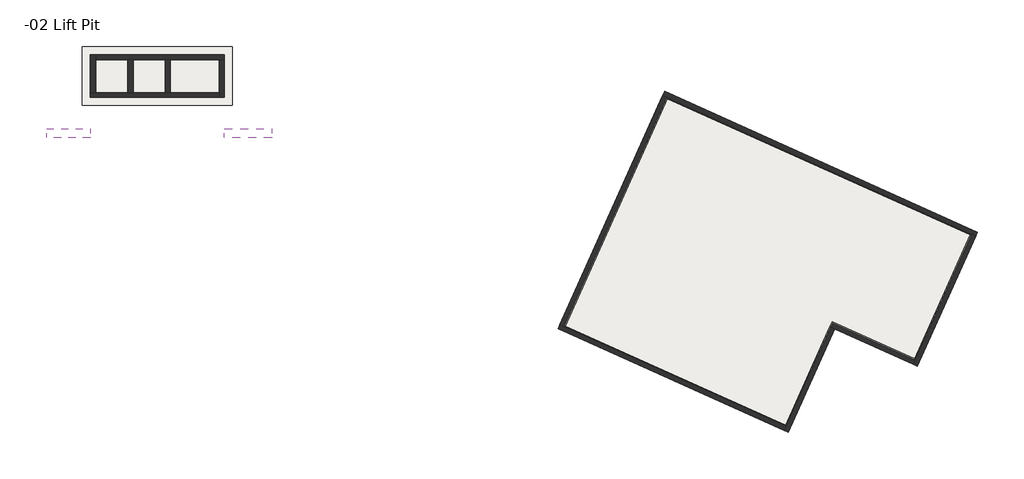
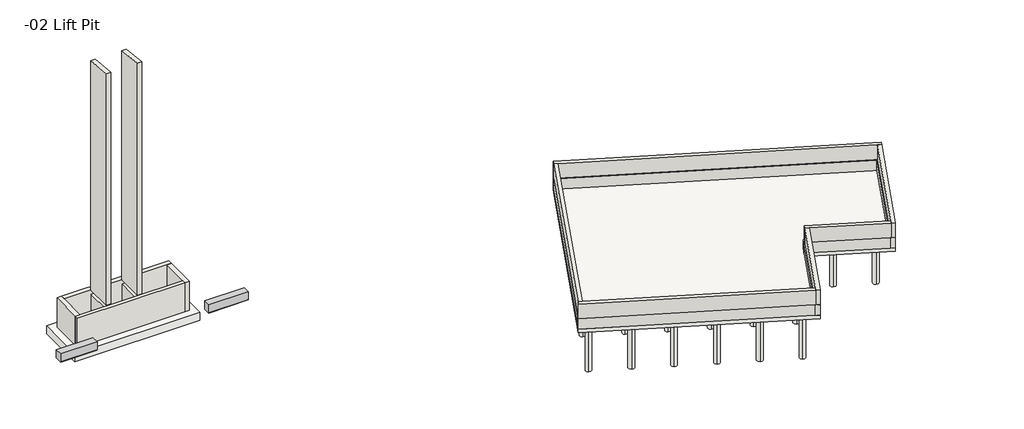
# One storey, incomplete: 30 slabs, 18 walls, 2 beams.
"""IFC4 building model written with IfcOpenShell, lengths in millimetres."""

from ifc_helpers import new_model, si_unit, point, frame, frame_2d, origin, place, context, project, spatial, polyline, circle_curve, trimmed, segment, composite_curve, outline, extrude, faceted_brep, element, save

model = new_model("IFC4")

# Units and contexts
model_context = context("Model", 3, world=origin())
ifc_project = project(units=[si_unit("LENGTHUNIT", "METRE", prefix="MILLI")], contexts=[model_context])

# Site, building, storey
site = spatial("IfcSite", under=ifc_project)
building = spatial("IfcBuilding", under=site)
storey = spatial("IfcBuildingStorey", under=building, Name="-02 Lift Pit", Elevation=-2133.6)

# Beams
placement = place(None, origin())
element("IfcBeam", 1, ObjectType="Ring Beam : 12 x 24", at=placement, inside=storey, context=model_context, shape_type="SweptSolid", body=[
    extrude(outline(polyline([(-7759.7, -304.8), (-7251.7, -304.8), (-7251.7, -889.0), (-7277.1, -914.4), (-7734.3, -914.4), (-7759.7, -889.0), (-7759.7, -304.8)])), frame((18249.9, 0.0, 0.0), z_axis=(1.0, 0.0, 0.0), x_axis=(0.0, 1.0, 0.0)), (0.0, 0.0, 1.0), 2717.8),
])
element("IfcBeam", 2, ObjectType="Ring Beam : 12 x 24", at=placement, inside=storey, context=model_context, shape_type="SweptSolid", body=[
    extrude(outline(polyline([(-7759.7, -889.0), (-7759.7, -304.8), (-7251.7, -304.8), (-7251.7, -889.0), (-7277.1, -914.4), (-7734.3, -914.4), (-7759.7, -889.0)])), frame((8051.8, 0.0, 0.0), z_axis=(1.0, 0.0, 0.0), x_axis=(0.0, 1.0, 0.0)), (0.0, 0.0, 1.0), 2501.9),
])

# Slabs
element("IfcSlab", 3, ObjectType="10\" Foundation Slab", at=placement, inside=storey, context=model_context, shape_type="Brep", body=[
    faceted_brep([(61413.0546278, -13159.9258537, -2387.6), (57962.8673107, -20840.7, -2387.6), (53236.2370668, -18717.5078049, -2387.6), (50577.0429205, -24637.3804878, -2387.6), (37370.2819449, -18704.9317073, -2387.6), (43479.6634083, -5104.284878, -2387.6), (61413.0546278, -13159.9258537, -2133.6), (43479.6634083, -5104.284878, -2133.6), (43354.7697498, -5382.3219512, -2133.6), (37495.1756034, -18426.8946341, -2133.6), (37370.2819449, -18704.9317073, -2133.6), (50299.0058473, -24512.4868293, -2133.6), (50577.0429205, -24637.3804878, -2133.6), (53236.2370668, -18717.5078049, -2133.6), (57684.8302376, -20715.8063415, -2133.6), (57962.8673107, -20840.7, -2133.6), (61288.1609693, -13437.9629268, -2133.6)], [[[0, 1, 2, 3, 4, 5]], [[6, 7, 8, 9, 10, 11, 12, 13, 14, 15, 16]], [[1, 0, 6, 16, 15]], [[2, 1, 15, 14, 13]], [[3, 2, 13, 12]], [[4, 3, 12, 11, 10]], [[5, 4, 10, 9, 8, 7]], [[0, 5, 7, 6]]]),
])
element("IfcSlab", 4, ObjectType="24\" Foundation Slab", at=placement, inside=storey, context=model_context, shape_type="SweptSolid", body=[
    extrude(outline(polyline([(10096.5, -5880.1), (10096.5, -2527.3), (18707.1, -2527.3), (18707.1, -5880.1), (10096.5, -5880.1)])), frame((0.0, 0.0, -2743.2), z_axis=(0.0, 0.0, 1.0), x_axis=(1.0, 0.0, 0.0)), (0.0, 0.0, 1.0), 609.6),
])
element("IfcSlab", 5, ObjectType="Round In Situ Concrete Pile : 16\" Diameter 16'", at=placement, inside=storey, context=model_context, shape_type="SweptSolid", body=[
    extrude(outline(composite_curve([segment(trimmed(circle_curve(frame_2d((43939.0936522, -6313.0770732)), 203.2), [point((43855.8312132, -6498.435122))], [point((44022.3560912, -6127.7190244))], False, "CARTESIAN"), True, "CONTINUOUS"), segment(trimmed(circle_curve(frame_2d((43939.0936522, -6313.0770732)), 203.2), [point((44022.3560912, -6127.7190244))], [point((43855.8312132, -6498.435122))], False, "CARTESIAN"), True, "CONTINUOUS")], self_intersect=False)), frame((0.0, 0.0, -7264.4), z_axis=(0.0, 0.0, 1.0), x_axis=(1.0, 0.0, 0.0)), (0.0, 0.0, 1.0), 4876.8),
])
element("IfcSlab", 6, ObjectType="Round In Situ Concrete Pile : 16\" Diameter 16'", at=placement, inside=storey, context=model_context, shape_type="SweptSolid", body=[
    extrude(outline(composite_curve([segment(trimmed(circle_curve(frame_2d((46278.2460285, -7363.8193171)), 203.2), [point((46194.9835895, -7549.1773659))], [point((46361.5084675, -7178.4612683))], False, "CARTESIAN"), True, "CONTINUOUS"), segment(trimmed(circle_curve(frame_2d((46278.2460285, -7363.8193171)), 203.2), [point((46361.5084675, -7178.4612683))], [point((46194.9835895, -7549.1773659))], False, "CARTESIAN"), True, "CONTINUOUS")], self_intersect=False)), frame((0.0, 0.0, -7264.4), z_axis=(0.0, 0.0, 1.0), x_axis=(1.0, 0.0, 0.0)), (0.0, 0.0, 1.0), 4876.8),
])
element("IfcSlab", 7, ObjectType="Round In Situ Concrete Pile : 16\" Diameter 16'", at=placement, inside=storey, context=model_context, shape_type="SweptSolid", body=[
    extrude(outline(composite_curve([segment(trimmed(circle_curve(frame_2d((48617.3984048, -8414.561561)), 203.2), [point((48534.1359658, -8599.9196098))], [point((48700.6608438, -8229.2035122))], False, "CARTESIAN"), True, "CONTINUOUS"), segment(trimmed(circle_curve(frame_2d((48617.3984048, -8414.561561)), 203.2), [point((48700.6608438, -8229.2035122))], [point((48534.1359658, -8599.9196098))], False, "CARTESIAN"), True, "CONTINUOUS")], self_intersect=False)), frame((0.0, 0.0, -7264.4), z_axis=(0.0, 0.0, 1.0), x_axis=(1.0, 0.0, 0.0)), (0.0, 0.0, 1.0), 4876.8),
])
element("IfcSlab", 8, ObjectType="Round In Situ Concrete Pile : 16\" Diameter 16'", at=placement, inside=storey, context=model_context, shape_type="SweptSolid", body=[
    extrude(outline(composite_curve([segment(trimmed(circle_curve(frame_2d((50956.5507811, -9465.3038049)), 203.2), [point((50873.2883421, -9650.6618537))], [point((51039.8132202, -9279.9457561))], False, "CARTESIAN"), True, "CONTINUOUS"), segment(trimmed(circle_curve(frame_2d((50956.5507811, -9465.3038049)), 203.2), [point((51039.8132202, -9279.9457561))], [point((50873.2883421, -9650.6618537))], False, "CARTESIAN"), True, "CONTINUOUS")], self_intersect=False)), frame((0.0, 0.0, -7264.4), z_axis=(0.0, 0.0, 1.0), x_axis=(1.0, 0.0, 0.0)), (0.0, 0.0, 1.0), 4876.8),
])
element("IfcSlab", 9, ObjectType="Round In Situ Concrete Pile : 16\" Diameter 16'", at=placement, inside=storey, context=model_context, shape_type="SweptSolid", body=[
    extrude(outline(composite_curve([segment(trimmed(circle_curve(frame_2d((53295.7031574, -10516.0460488)), 203.2), [point((53212.4407184, -10701.4040976))], [point((53378.9655965, -10330.688))], False, "CARTESIAN"), True, "CONTINUOUS"), segment(trimmed(circle_curve(frame_2d((53295.7031574, -10516.0460488)), 203.2), [point((53378.9655965, -10330.688))], [point((53212.4407184, -10701.4040976))], False, "CARTESIAN"), True, "CONTINUOUS")], self_intersect=False)), frame((0.0, 0.0, -7264.4), z_axis=(0.0, 0.0, 1.0), x_axis=(1.0, 0.0, 0.0)), (0.0, 0.0, 1.0), 4876.8),
])
element("IfcSlab", 10, ObjectType="Round In Situ Concrete Pile : 16\" Diameter 16'", at=placement, inside=storey, context=model_context, shape_type="SweptSolid", body=[
    extrude(outline(composite_curve([segment(trimmed(circle_curve(frame_2d((55634.8555337, -11566.7882927)), 203.2), [point((55551.5930947, -11752.1463415))], [point((55718.1179728, -11381.4302439))], False, "CARTESIAN"), True, "CONTINUOUS"), segment(trimmed(circle_curve(frame_2d((55634.8555337, -11566.7882927)), 203.2), [point((55718.1179728, -11381.4302439))], [point((55551.5930947, -11752.1463415))], False, "CARTESIAN"), True, "CONTINUOUS")], self_intersect=False)), frame((0.0, 0.0, -7264.4), z_axis=(0.0, 0.0, 1.0), x_axis=(1.0, 0.0, 0.0)), (0.0, 0.0, 1.0), 4876.8),
])
element("IfcSlab", 11, ObjectType="Round In Situ Concrete Pile : 16\" Diameter 16'", at=placement, inside=storey, context=model_context, shape_type="SweptSolid", body=[
    extrude(outline(composite_curve([segment(trimmed(circle_curve(frame_2d((57974.00791, -12617.5305366)), 203.2), [point((57890.745471, -12802.8885854))], [point((58057.2703491, -12432.1724878))], False, "CARTESIAN"), True, "CONTINUOUS"), segment(trimmed(circle_curve(frame_2d((57974.00791, -12617.5305366)), 203.2), [point((58057.2703491, -12432.1724878))], [point((57890.745471, -12802.8885854))], False, "CARTESIAN"), True, "CONTINUOUS")], self_intersect=False)), frame((0.0, 0.0, -7264.4), z_axis=(0.0, 0.0, 1.0), x_axis=(1.0, 0.0, 0.0)), (0.0, 0.0, 1.0), 4876.8),
])
element("IfcSlab", 12, ObjectType="Round In Situ Concrete Pile : 16\" Diameter 16'", at=placement, inside=storey, context=model_context, shape_type="SweptSolid", body=[
    extrude(outline(composite_curve([segment(trimmed(circle_curve(frame_2d((60313.1602864, -13668.2727805)), 203.2), [point((60229.8978473, -13853.6308293))], [point((60396.4227254, -13482.9147317))], False, "CARTESIAN"), True, "CONTINUOUS"), segment(trimmed(circle_curve(frame_2d((60313.1602864, -13668.2727805)), 203.2), [point((60396.4227254, -13482.9147317))], [point((60229.8978473, -13853.6308293))], False, "CARTESIAN"), True, "CONTINUOUS")], self_intersect=False)), frame((0.0, 0.0, -7264.4), z_axis=(0.0, 0.0, 1.0), x_axis=(1.0, 0.0, 0.0)), (0.0, 0.0, 1.0), 4876.8),
])
element("IfcSlab", 13, ObjectType="Round In Situ Concrete Pile : 16\" Diameter 16'", at=placement, inside=storey, context=model_context, shape_type="SweptSolid", body=[
    extrude(outline(composite_curve([segment(trimmed(circle_curve(frame_2d((42440.3697498, -9649.5219512)), 203.2), [point((42357.1073107, -9834.88))], [point((42523.6321888, -9464.1639024))], False, "CARTESIAN"), True, "CONTINUOUS"), segment(trimmed(circle_curve(frame_2d((42440.3697498, -9649.5219512)), 203.2), [point((42523.6321888, -9464.1639024))], [point((42357.1073107, -9834.88))], False, "CARTESIAN"), True, "CONTINUOUS")], self_intersect=False)), frame((0.0, 0.0, -7264.4), z_axis=(0.0, 0.0, 1.0), x_axis=(1.0, 0.0, 0.0)), (0.0, 0.0, 1.0), 4876.8),
])
element("IfcSlab", 14, ObjectType="Round In Situ Concrete Pile : 16\" Diameter 16'", at=placement, inside=storey, context=model_context, shape_type="SweptSolid", body=[
    extrude(outline(composite_curve([segment(trimmed(circle_curve(frame_2d((44779.5221261, -10700.2641951)), 203.2), [point((44696.2596871, -10885.6222439))], [point((44862.7845651, -10514.9061463))], False, "CARTESIAN"), True, "CONTINUOUS"), segment(trimmed(circle_curve(frame_2d((44779.5221261, -10700.2641951)), 203.2), [point((44862.7845651, -10514.9061463))], [point((44696.2596871, -10885.6222439))], False, "CARTESIAN"), True, "CONTINUOUS")], self_intersect=False)), frame((0.0, 0.0, -7264.4), z_axis=(0.0, 0.0, 1.0), x_axis=(1.0, 0.0, 0.0)), (0.0, 0.0, 1.0), 4876.8),
])
element("IfcSlab", 15, ObjectType="Round In Situ Concrete Pile : 16\" Diameter 16'", at=placement, inside=storey, context=model_context, shape_type="SweptSolid", body=[
    extrude(outline(composite_curve([segment(trimmed(circle_curve(frame_2d((47118.6745024, -11751.006439)), 203.2), [point((47035.4120634, -11936.3644878))], [point((47201.9369414, -11565.6483902))], False, "CARTESIAN"), True, "CONTINUOUS"), segment(trimmed(circle_curve(frame_2d((47118.6745024, -11751.006439)), 203.2), [point((47201.9369414, -11565.6483902))], [point((47035.4120634, -11936.3644878))], False, "CARTESIAN"), True, "CONTINUOUS")], self_intersect=False)), frame((0.0, 0.0, -7264.4), z_axis=(0.0, 0.0, 1.0), x_axis=(1.0, 0.0, 0.0)), (0.0, 0.0, 1.0), 4876.8),
])
element("IfcSlab", 16, ObjectType="Round In Situ Concrete Pile : 16\" Diameter 16'", at=placement, inside=storey, context=model_context, shape_type="SweptSolid", body=[
    extrude(outline(composite_curve([segment(trimmed(circle_curve(frame_2d((49457.8268787, -12801.7486829)), 203.2), [point((49374.5644397, -12987.1067317))], [point((49541.0893177, -12616.3906341))], False, "CARTESIAN"), True, "CONTINUOUS"), segment(trimmed(circle_curve(frame_2d((49457.8268787, -12801.7486829)), 203.2), [point((49541.0893177, -12616.3906341))], [point((49374.5644397, -12987.1067317))], False, "CARTESIAN"), True, "CONTINUOUS")], self_intersect=False)), frame((0.0, 0.0, -7264.4), z_axis=(0.0, 0.0, 1.0), x_axis=(1.0, 0.0, 0.0)), (0.0, 0.0, 1.0), 4876.8),
])
element("IfcSlab", 17, ObjectType="Round In Situ Concrete Pile : 16\" Diameter 16'", at=placement, inside=storey, context=model_context, shape_type="SweptSolid", body=[
    extrude(outline(composite_curve([segment(trimmed(circle_curve(frame_2d((51796.979255, -13852.4909268)), 203.2), [point((51713.716816, -14037.8489756))], [point((51880.241694, -13667.132878))], False, "CARTESIAN"), True, "CONTINUOUS"), segment(trimmed(circle_curve(frame_2d((51796.979255, -13852.4909268)), 203.2), [point((51880.241694, -13667.132878))], [point((51713.716816, -14037.8489756))], False, "CARTESIAN"), True, "CONTINUOUS")], self_intersect=False)), frame((0.0, 0.0, -7264.4), z_axis=(0.0, 0.0, 1.0), x_axis=(1.0, 0.0, 0.0)), (0.0, 0.0, 1.0), 4876.8),
])
element("IfcSlab", 18, ObjectType="Round In Situ Concrete Pile : 16\" Diameter 16'", at=placement, inside=storey, context=model_context, shape_type="SweptSolid", body=[
    extrude(outline(composite_curve([segment(trimmed(circle_curve(frame_2d((54136.1316313, -14903.2331707)), 203.2), [point((54052.8691923, -15088.5912195))], [point((54219.3940703, -14717.875122))], False, "CARTESIAN"), True, "CONTINUOUS"), segment(trimmed(circle_curve(frame_2d((54136.1316313, -14903.2331707)), 203.2), [point((54219.3940703, -14717.875122))], [point((54052.8691923, -15088.5912195))], False, "CARTESIAN"), True, "CONTINUOUS")], self_intersect=False)), frame((0.0, 0.0, -7264.4), z_axis=(0.0, 0.0, 1.0), x_axis=(1.0, 0.0, 0.0)), (0.0, 0.0, 1.0), 4876.8),
])
element("IfcSlab", 19, ObjectType="Round In Situ Concrete Pile : 16\" Diameter 16'", at=placement, inside=storey, context=model_context, shape_type="SweptSolid", body=[
    extrude(outline(composite_curve([segment(trimmed(circle_curve(frame_2d((56475.2840076, -15953.9754146)), 203.2), [point((56392.0215686, -16139.3334634))], [point((56558.5464466, -15768.6173659))], False, "CARTESIAN"), True, "CONTINUOUS"), segment(trimmed(circle_curve(frame_2d((56475.2840076, -15953.9754146)), 203.2), [point((56558.5464466, -15768.6173659))], [point((56392.0215686, -16139.3334634))], False, "CARTESIAN"), True, "CONTINUOUS")], self_intersect=False)), frame((0.0, 0.0, -7264.4), z_axis=(0.0, 0.0, 1.0), x_axis=(1.0, 0.0, 0.0)), (0.0, 0.0, 1.0), 4876.8),
])
element("IfcSlab", 20, ObjectType="Round In Situ Concrete Pile : 16\" Diameter 16'", at=placement, inside=storey, context=model_context, shape_type="SweptSolid", body=[
    extrude(outline(composite_curve([segment(trimmed(circle_curve(frame_2d((58814.4363839, -17004.7176585)), 203.2), [point((58731.1739449, -17190.0757073))], [point((58897.6988229, -16819.3596098))], False, "CARTESIAN"), True, "CONTINUOUS"), segment(trimmed(circle_curve(frame_2d((58814.4363839, -17004.7176585)), 203.2), [point((58897.6988229, -16819.3596098))], [point((58731.1739449, -17190.0757073))], False, "CARTESIAN"), True, "CONTINUOUS")], self_intersect=False)), frame((0.0, 0.0, -7264.4), z_axis=(0.0, 0.0, 1.0), x_axis=(1.0, 0.0, 0.0)), (0.0, 0.0, 1.0), 4876.8),
])
element("IfcSlab", 21, ObjectType="Round In Situ Concrete Pile : 16\" Diameter 16'", at=placement, inside=storey, context=model_context, shape_type="SweptSolid", body=[
    extrude(outline(composite_curve([segment(trimmed(circle_curve(frame_2d((40941.6458473, -12985.9668293)), 203.2), [point((40858.3834083, -13171.324878))], [point((41024.9082864, -12800.6087805))], False, "CARTESIAN"), True, "CONTINUOUS"), segment(trimmed(circle_curve(frame_2d((40941.6458473, -12985.9668293)), 203.2), [point((41024.9082864, -12800.6087805))], [point((40858.3834083, -13171.324878))], False, "CARTESIAN"), True, "CONTINUOUS")], self_intersect=False)), frame((0.0, 0.0, -7264.4), z_axis=(0.0, 0.0, 1.0), x_axis=(1.0, 0.0, 0.0)), (0.0, 0.0, 1.0), 4876.8),
])
element("IfcSlab", 22, ObjectType="Round In Situ Concrete Pile : 16\" Diameter 16'", at=placement, inside=storey, context=model_context, shape_type="SweptSolid", body=[
    extrude(outline(composite_curve([segment(trimmed(circle_curve(frame_2d((43280.7982236, -14036.7090732)), 203.2), [point((43197.5357846, -14222.067122))], [point((43364.0606627, -13851.3510244))], False, "CARTESIAN"), True, "CONTINUOUS"), segment(trimmed(circle_curve(frame_2d((43280.7982236, -14036.7090732)), 203.2), [point((43364.0606627, -13851.3510244))], [point((43197.5357846, -14222.067122))], False, "CARTESIAN"), True, "CONTINUOUS")], self_intersect=False)), frame((0.0, 0.0, -7264.4), z_axis=(0.0, 0.0, 1.0), x_axis=(1.0, 0.0, 0.0)), (0.0, 0.0, 1.0), 4876.8),
])
element("IfcSlab", 23, ObjectType="Round In Situ Concrete Pile : 16\" Diameter 16'", at=placement, inside=storey, context=model_context, shape_type="SweptSolid", body=[
    extrude(outline(composite_curve([segment(trimmed(circle_curve(frame_2d((45619.9505999, -15087.4513171)), 203.2), [point((45536.6881609, -15272.8093659))], [point((45703.213039, -14902.0932683))], False, "CARTESIAN"), True, "CONTINUOUS"), segment(trimmed(circle_curve(frame_2d((45619.9505999, -15087.4513171)), 203.2), [point((45703.213039, -14902.0932683))], [point((45536.6881609, -15272.8093659))], False, "CARTESIAN"), True, "CONTINUOUS")], self_intersect=False)), frame((0.0, 0.0, -7264.4), z_axis=(0.0, 0.0, 1.0), x_axis=(1.0, 0.0, 0.0)), (0.0, 0.0, 1.0), 4876.8),
])
element("IfcSlab", 24, ObjectType="Round In Situ Concrete Pile : 16\" Diameter 16'", at=placement, inside=storey, context=model_context, shape_type="SweptSolid", body=[
    extrude(outline(composite_curve([segment(trimmed(circle_curve(frame_2d((47959.1029762, -16138.193561)), 203.2), [point((47875.8405372, -16323.5516098))], [point((48042.3654153, -15952.8355122))], False, "CARTESIAN"), True, "CONTINUOUS"), segment(trimmed(circle_curve(frame_2d((47959.1029762, -16138.193561)), 203.2), [point((48042.3654153, -15952.8355122))], [point((47875.8405372, -16323.5516098))], False, "CARTESIAN"), True, "CONTINUOUS")], self_intersect=False)), frame((0.0, 0.0, -7264.4), z_axis=(0.0, 0.0, 1.0), x_axis=(1.0, 0.0, 0.0)), (0.0, 0.0, 1.0), 4876.8),
])
element("IfcSlab", 25, ObjectType="Round In Situ Concrete Pile : 16\" Diameter 16'", at=placement, inside=storey, context=model_context, shape_type="SweptSolid", body=[
    extrude(outline(composite_curve([segment(trimmed(circle_curve(frame_2d((50298.2553526, -17188.9358049)), 203.2), [point((50214.9929135, -17374.2938537))], [point((50381.5177916, -17003.5777561))], False, "CARTESIAN"), True, "CONTINUOUS"), segment(trimmed(circle_curve(frame_2d((50298.2553526, -17188.9358049)), 203.2), [point((50381.5177916, -17003.5777561))], [point((50214.9929135, -17374.2938537))], False, "CARTESIAN"), True, "CONTINUOUS")], self_intersect=False)), frame((0.0, 0.0, -7264.4), z_axis=(0.0, 0.0, 1.0), x_axis=(1.0, 0.0, 0.0)), (0.0, 0.0, 1.0), 4876.8),
])
element("IfcSlab", 26, ObjectType="Round In Situ Concrete Pile : 16\" Diameter 16'", at=placement, inside=storey, context=model_context, shape_type="SweptSolid", body=[
    extrude(outline(composite_curve([segment(trimmed(circle_curve(frame_2d((52637.4077289, -18239.6780488)), 203.2), [point((52554.1452898, -18425.0360976))], [point((52720.6701679, -18054.32))], False, "CARTESIAN"), True, "CONTINUOUS"), segment(trimmed(circle_curve(frame_2d((52637.4077289, -18239.6780488)), 203.2), [point((52720.6701679, -18054.32))], [point((52554.1452898, -18425.0360976))], False, "CARTESIAN"), True, "CONTINUOUS")], self_intersect=False)), frame((0.0, 0.0, -7264.4), z_axis=(0.0, 0.0, 1.0), x_axis=(1.0, 0.0, 0.0)), (0.0, 0.0, 1.0), 4876.8),
])
element("IfcSlab", 27, ObjectType="Round In Situ Concrete Pile : 16\" Diameter 16'", at=placement, inside=storey, context=model_context, shape_type="SweptSolid", body=[
    extrude(outline(composite_curve([segment(trimmed(circle_curve(frame_2d((39442.9219449, -16322.4117073)), 203.2), [point((39359.6595059, -16507.7697561))], [point((39526.1843839, -16137.0536585))], False, "CARTESIAN"), True, "CONTINUOUS"), segment(trimmed(circle_curve(frame_2d((39442.9219449, -16322.4117073)), 203.2), [point((39526.1843839, -16137.0536585))], [point((39359.6595059, -16507.7697561))], False, "CARTESIAN"), True, "CONTINUOUS")], self_intersect=False)), frame((0.0, 0.0, -7264.4), z_axis=(0.0, 0.0, 1.0), x_axis=(1.0, 0.0, 0.0)), (0.0, 0.0, 1.0), 4876.8),
])
element("IfcSlab", 28, ObjectType="Round In Situ Concrete Pile : 16\" Diameter 16'", at=placement, inside=storey, context=model_context, shape_type="SweptSolid", body=[
    extrude(outline(composite_curve([segment(trimmed(circle_curve(frame_2d((41782.0743212, -17373.1539512)), 203.2), [point((41698.8118822, -17558.512))], [point((41865.3367602, -17187.7959024))], False, "CARTESIAN"), True, "CONTINUOUS"), segment(trimmed(circle_curve(frame_2d((41782.0743212, -17373.1539512)), 203.2), [point((41865.3367602, -17187.7959024))], [point((41698.8118822, -17558.512))], False, "CARTESIAN"), True, "CONTINUOUS")], self_intersect=False)), frame((0.0, 0.0, -7264.4), z_axis=(0.0, 0.0, 1.0), x_axis=(1.0, 0.0, 0.0)), (0.0, 0.0, 1.0), 4876.8),
])
element("IfcSlab", 29, ObjectType="Round In Situ Concrete Pile : 16\" Diameter 16'", at=placement, inside=storey, context=model_context, shape_type="SweptSolid", body=[
    extrude(outline(composite_curve([segment(trimmed(circle_curve(frame_2d((44121.2266975, -18423.8961951)), 203.2), [point((44037.9642585, -18609.2542439))], [point((44204.4891365, -18238.5381463))], False, "CARTESIAN"), True, "CONTINUOUS"), segment(trimmed(circle_curve(frame_2d((44121.2266975, -18423.8961951)), 203.2), [point((44204.4891365, -18238.5381463))], [point((44037.9642585, -18609.2542439))], False, "CARTESIAN"), True, "CONTINUOUS")], self_intersect=False)), frame((0.0, 0.0, -7264.4), z_axis=(0.0, 0.0, 1.0), x_axis=(1.0, 0.0, 0.0)), (0.0, 0.0, 1.0), 4876.8),
])
element("IfcSlab", 30, ObjectType="Round In Situ Concrete Pile : 16\" Diameter 16'", at=placement, inside=storey, context=model_context, shape_type="SweptSolid", body=[
    extrude(outline(composite_curve([segment(trimmed(circle_curve(frame_2d((46460.3790738, -19474.638439)), 203.2), [point((46377.1166348, -19659.9964878))], [point((46543.6415128, -19289.2803902))], False, "CARTESIAN"), True, "CONTINUOUS"), segment(trimmed(circle_curve(frame_2d((46460.3790738, -19474.638439)), 203.2), [point((46543.6415128, -19289.2803902))], [point((46377.1166348, -19659.9964878))], False, "CARTESIAN"), True, "CONTINUOUS")], self_intersect=False)), frame((0.0, 0.0, -7264.4), z_axis=(0.0, 0.0, 1.0), x_axis=(1.0, 0.0, 0.0)), (0.0, 0.0, 1.0), 4876.8),
])
element("IfcSlab", 31, ObjectType="Round In Situ Concrete Pile : 16\" Diameter 16'", at=placement, inside=storey, context=model_context, shape_type="SweptSolid", body=[
    extrude(outline(composite_curve([segment(trimmed(circle_curve(frame_2d((48799.5314501, -20525.3806829)), 203.2), [point((48716.2690111, -20710.7387317))], [point((48882.7938891, -20340.0226341))], False, "CARTESIAN"), True, "CONTINUOUS"), segment(trimmed(circle_curve(frame_2d((48799.5314501, -20525.3806829)), 203.2), [point((48882.7938891, -20340.0226341))], [point((48716.2690111, -20710.7387317))], False, "CARTESIAN"), True, "CONTINUOUS")], self_intersect=False)), frame((0.0, 0.0, -7264.4), z_axis=(0.0, 0.0, 1.0), x_axis=(1.0, 0.0, 0.0)), (0.0, 0.0, 1.0), 4876.8),
])
element("IfcSlab", 32, ObjectType="Round In Situ Concrete Pile : 16\" Diameter 16'", at=placement, inside=storey, context=model_context, shape_type="SweptSolid", body=[
    extrude(outline(composite_curve([segment(trimmed(circle_curve(frame_2d((51138.6838264, -21576.1229268)), 203.2), [point((51055.4213874, -21761.4809756))], [point((51221.9462654, -21390.764878))], False, "CARTESIAN"), True, "CONTINUOUS"), segment(trimmed(circle_curve(frame_2d((51138.6838264, -21576.1229268)), 203.2), [point((51221.9462654, -21390.764878))], [point((51055.4213874, -21761.4809756))], False, "CARTESIAN"), True, "CONTINUOUS")], self_intersect=False)), frame((0.0, 0.0, -7264.4), z_axis=(0.0, 0.0, 1.0), x_axis=(1.0, 0.0, 0.0)), (0.0, 0.0, 1.0), 4876.8),
])

# Walls
element("IfcWall", 33, ObjectType="Jumpform RC Wall 12\"", at=placement, inside=storey, context=model_context, shape_type="SweptSolid", body=[
    extrude(outline(polyline([(13017.5, -3289.3), (13017.5, -5168.9), (12712.7, -5168.9), (12712.7, -3289.3), (13017.5, -3289.3)])), frame((0.0, 0.0, -2133.6), z_axis=(0.0, 0.0, 1.0), x_axis=(1.0, 0.0, 0.0)), (0.0, 0.0, 1.0), 1828.8),
    extrude(outline(polyline([(-5118.1, 0.0), (-5118.1, 16867.0467055), (-3289.3, 16674.83208), (-3289.3, 0.0), (-5118.1, 0.0)])), frame((12712.7, 0.0, 0.0), z_axis=(1.0, 0.0, 0.0), x_axis=(0.0, 1.0, 0.0)), (0.0, 0.0, 1.0), 304.8),
])
element("IfcWall", 34, ObjectType="Jumpform RC Wall 12\"", at=placement, inside=storey, context=model_context, shape_type="SweptSolid", body=[
    extrude(outline(polyline([(15151.1, -3289.3), (15151.1, -5168.9), (14846.3, -5168.9), (14846.3, -3289.3), (15151.1, -3289.3)])), frame((0.0, 0.0, -2133.6), z_axis=(0.0, 0.0, 1.0), x_axis=(1.0, 0.0, 0.0)), (0.0, 0.0, 1.0), 1828.8),
    extrude(outline(polyline([(-5118.1, 0.0), (-5118.1, 16867.0467055), (-3289.3, 16674.83208), (-3289.3, 0.0), (-5118.1, 0.0)])), frame((14846.3, 0.0, 0.0), z_axis=(1.0, 0.0, 0.0), x_axis=(0.0, 1.0, 0.0)), (0.0, 0.0, 1.0), 304.8),
])
element("IfcWall", 35, ObjectType="RC Wall 10\"", at=placement, inside=storey, context=model_context, shape_type="Brep", body=[
    faceted_brep([(10553.7, -5422.9, -2133.6), (17945.1, -5422.9, -2133.6), (17945.1, -5422.9, 0.0), (10553.7, -5422.9, 0.0), (10553.7, -5422.9, -304.8), (10553.7, -5422.9, -914.4), (10553.7, -5168.9, -2133.6), (10553.7, -5168.9, 0.0), (10858.5, -5168.9, 0.0), (17945.1, -5168.9, 0.0), (17945.1, -5168.9, -304.8), (17945.1, -5168.9, -2133.6), (15151.1, -5168.9, -2133.6), (14846.3, -5168.9, -2133.6), (13017.5, -5168.9, -2133.6), (12712.7, -5168.9, -2133.6), (10858.5, -5168.9, -2133.6)], [[[0, 1, 2, 3, 4, 5]], [[6, 7, 8, 9, 10, 11, 12, 13, 14, 15, 16]], [[1, 0, 6, 16, 15, 14, 13, 12, 11]], [[3, 2, 9, 8, 7]], [[0, 5, 4, 3, 7, 6]], [[2, 1, 11, 10, 9]]]),
])
element("IfcWall", 36, ObjectType="RC Wall 10\"", at=placement, inside=storey, context=model_context, shape_type="Brep", body=[
    faceted_brep([(43375.5853595, -5335.982439, -1371.6), (43607.2829205, -5440.0604878, -1371.6), (61077.2790181, -13287.5453659, -1371.6), (61308.976579, -13391.6234146, -1371.6), (61308.976579, -13391.6234146, -304.8), (61077.2790181, -13287.5453659, -304.8), (43607.2829205, -5440.0604878, -304.8), (43375.5853595, -5335.982439, -304.8), (43479.6634083, -5104.284878, -1371.6), (43479.6634083, -5104.284878, -1193.8), (43479.6634083, -5104.284878, -304.8), (61413.0546278, -13159.9258537, -304.8), (61413.0546278, -13159.9258537, -1371.6)], [[[0, 1, 2, 3, 4, 5, 6, 7]], [[8, 9, 10, 11, 12]], [[3, 2, 1, 0, 8, 12]], [[7, 6, 5, 4, 11, 10]], [[4, 3, 12, 11]], [[0, 7, 10, 9, 8]]]),
])
element("IfcWall", 37, ObjectType="RC Wall 10\"", at=placement, inside=storey, context=model_context, shape_type="Brep", body=[
    faceted_brep([(61077.2790181, -13287.5453659, -1371.6), (57835.2477985, -20504.9243902, -1371.6), (57731.1697498, -20736.6219512, -1371.6), (57731.1697498, -20736.6219512, -304.8), (57835.2477985, -20504.9243902, -304.8), (61077.2790181, -13287.5453659, -304.8), (61308.976579, -13391.6234146, -1371.6), (61308.976579, -13391.6234146, -304.8), (57962.8673107, -20840.7, -304.8), (57962.8673107, -20840.7, -1371.6), (61288.1609693, -13437.9629268, -1371.6)], [[[0, 1, 2, 3, 4, 5]], [[6, 7, 8, 9, 10]], [[2, 1, 0, 6, 10, 9]], [[5, 4, 3, 8, 7]], [[0, 5, 7, 6]], [[3, 2, 9, 8]]]),
])
element("IfcWall", 38, ObjectType="RC Wall 10\"", at=placement, inside=storey, context=model_context, shape_type="Brep", body=[
    faceted_brep([(57835.2477985, -20504.9243902, -1371.6), (53108.6175546, -18381.7321951, -1371.6), (53108.6175546, -18381.7321951, -304.8), (57835.2477985, -20504.9243902, -304.8), (57731.1697498, -20736.6219512, -1371.6), (57731.1697498, -20736.6219512, -304.8), (53236.2370668, -18717.5078049, -304.8), (53004.5395059, -18613.4297561, -304.8), (53004.5395059, -18613.4297561, -1371.6), (53236.2370668, -18717.5078049, -1371.6), (57684.8302376, -20715.8063415, -1371.6)], [[[0, 1, 2, 3]], [[4, 5, 6, 7, 8, 9, 10]], [[1, 0, 4, 10, 9, 8]], [[3, 2, 7, 6, 5]], [[0, 3, 5, 4]], [[2, 1, 8, 7]]]),
])
element("IfcWall", 39, ObjectType="RC Wall 10\"", at=placement, inside=storey, context=model_context, shape_type="Brep", body=[
    faceted_brep([(53004.5395059, -18613.4297561, -1371.6), (50449.4234083, -24301.604878, -1371.6), (50345.3453595, -24533.302439, -1371.6), (50345.3453595, -24533.302439, -304.8), (50449.4234083, -24301.604878, -304.8), (53004.5395059, -18613.4297561, -304.8), (53236.2370668, -18717.5078049, -1371.6), (53236.2370668, -18717.5078049, -304.8), (50577.0429205, -24637.3804878, -304.8), (50577.0429205, -24637.3804878, -1371.6)], [[[0, 1, 2, 3, 4, 5]], [[6, 7, 8, 9]], [[2, 1, 0, 6, 9]], [[5, 4, 3, 8, 7]], [[0, 5, 7, 6]], [[3, 2, 9, 8]]]),
])
element("IfcWall", 40, ObjectType="RC Wall 10\"", at=placement, inside=storey, context=model_context, shape_type="Brep", body=[
    faceted_brep([(50449.4234083, -24301.604878, -1371.6), (37706.0575546, -18577.3121951, -1371.6), (37474.3599937, -18473.2341463, -1371.6), (37474.3599937, -18473.2341463, -304.8), (37706.0575546, -18577.3121951, -304.8), (50449.4234083, -24301.604878, -304.8), (50345.3453595, -24533.302439, -1371.6), (50345.3453595, -24533.302439, -304.8), (37370.2819449, -18704.9317073, -304.8), (37370.2819449, -18704.9317073, -1193.8), (37370.2819449, -18704.9317073, -1371.6), (50299.0058473, -24512.4868293, -1371.6)], [[[0, 1, 2, 3, 4, 5]], [[6, 7, 8, 9, 10, 11]], [[2, 1, 0, 6, 11, 10]], [[5, 4, 3, 8, 7]], [[0, 5, 7, 6]], [[3, 2, 10, 9, 8]]]),
])
element("IfcWall", 41, ObjectType="RC Wall 10\"", at=placement, inside=storey, context=model_context, shape_type="Brep", body=[
    faceted_brep([(37706.0575546, -18577.3121951, -1371.6), (43607.2829205, -5440.0604878, -1371.6), (43607.2829205, -5440.0604878, -304.8), (37706.0575546, -18577.3121951, -304.8), (37474.3599937, -18473.2341463, -1371.6), (37474.3599937, -18473.2341463, -304.8), (43375.5853595, -5335.982439, -304.8), (43375.5853595, -5335.982439, -1371.6), (43354.7697498, -5382.3219512, -1371.6), (37495.1756034, -18426.8946341, -1371.6)], [[[0, 1, 2, 3]], [[4, 5, 6, 7, 8, 9]], [[1, 0, 4, 9, 8, 7]], [[3, 2, 6, 5]], [[2, 1, 7, 6]], [[0, 3, 5, 4]]]),
])
element("IfcWall", 42, ObjectType="RC Wall 12\"", at=placement, inside=storey, context=model_context, shape_type="Brep", body=[
    faceted_brep([(10553.7, -2984.5, -2133.6), (10553.7, -5168.9, -2133.6), (10553.7, -5168.9, 0.0), (10553.7, -2984.5, 0.0), (10553.7, -2984.5, -304.8), (10858.5, -2984.5, -2133.6), (10858.5, -2984.5, 0.0), (10858.5, -3289.3, 0.0), (10858.5, -5168.9, 0.0), (10858.5, -5168.9, -304.8), (10858.5, -5168.9, -2133.6), (10858.5, -3289.3, -2133.6)], [[[0, 1, 2, 3, 4]], [[5, 6, 7, 8, 9, 10, 11]], [[1, 0, 5, 11, 10]], [[3, 2, 8, 7, 6]], [[0, 4, 3, 6, 5]], [[2, 1, 10, 9, 8]]]),
])
element("IfcWall", 43, ObjectType="RC Wall 12\"", at=placement, inside=storey, context=model_context, shape_type="Brep", body=[
    faceted_brep([(18249.9, -2984.5, -2133.6), (10858.5, -2984.5, -2133.6), (10858.5, -2984.5, 0.0), (18249.9, -2984.5, 0.0), (18249.9, -2984.5, -304.8), (18249.9, -3289.3, -2133.6), (18249.9, -3289.3, 0.0), (17945.1, -3289.3, 0.0), (10858.5, -3289.3, 0.0), (10858.5, -3289.3, -304.8), (10858.5, -3289.3, -2133.6), (12712.7, -3289.3, -2133.6), (13017.5, -3289.3, -2133.6), (14846.3, -3289.3, -2133.6), (15151.1, -3289.3, -2133.6), (17945.1, -3289.3, -2133.6)], [[[0, 1, 2, 3, 4]], [[5, 6, 7, 8, 9, 10, 11, 12, 13, 14, 15]], [[1, 0, 5, 15, 14, 13, 12, 11, 10]], [[3, 2, 8, 7, 6]], [[0, 4, 3, 6, 5]], [[2, 1, 10, 9, 8]]]),
])
element("IfcWall", 44, ObjectType="RC Wall 12\"", at=placement, inside=storey, context=model_context, shape_type="Brep", body=[
    faceted_brep([(18249.9, -5422.9, -2133.6), (18249.9, -3289.3, -2133.6), (18249.9, -3289.3, 0.0), (18249.9, -5422.9, 0.0), (18249.9, -5422.9, -304.8), (17945.1, -5422.9, -2133.6), (17945.1, -5422.9, 0.0), (17945.1, -5168.9, 0.0), (17945.1, -3289.3, 0.0), (17945.1, -3289.3, -304.8), (17945.1, -3289.3, -2133.6), (17945.1, -5168.9, -2133.6)], [[[0, 1, 2, 3, 4]], [[5, 6, 7, 8, 9, 10, 11]], [[1, 0, 5, 11, 10]], [[3, 2, 8, 7, 6]], [[0, 4, 3, 6, 5]], [[2, 1, 10, 9, 8]]]),
])
element("IfcWall", 45, ObjectType="RC Wall 12\"", at=placement, inside=storey, context=model_context, shape_type="Brep", body=[
    faceted_brep([(43354.7697498, -5382.3219512, -2133.6), (43632.8068229, -5507.2156098, -2133.6), (61010.1238961, -13313.0692683, -2133.6), (61288.1609693, -13437.9629268, -2133.6), (61288.1609693, -13437.9629268, -1371.6), (61010.1238961, -13313.0692683, -1371.6), (43632.8068229, -5507.2156098, -1371.6), (43354.7697498, -5382.3219512, -1371.6), (43479.6634083, -5104.284878, -2133.6), (43479.6634083, -5104.284878, -1371.6), (61413.0546278, -13159.9258537, -1371.6), (61413.0546278, -13159.9258537, -2133.6), (61308.976579, -13391.6234146, -1371.6), (43375.5853595, -5335.982439, -1371.6)], [[[0, 1, 2, 3, 4, 5, 6, 7]], [[8, 9, 10, 11]], [[3, 2, 1, 0, 8, 11]], [[7, 6, 5, 4, 12, 10, 9, 13]], [[4, 3, 11, 10, 12]], [[0, 7, 13, 9, 8]]]),
])
element("IfcWall", 46, ObjectType="RC Wall 12\"", at=placement, inside=storey, context=model_context, shape_type="Brep", body=[
    faceted_brep([(61010.1238961, -13313.0692683, -2133.6), (57809.7238961, -20437.7692683, -2133.6), (57684.8302376, -20715.8063415, -2133.6), (57684.8302376, -20715.8063415, -1371.6), (57809.7238961, -20437.7692683, -1371.6), (61010.1238961, -13313.0692683, -1371.6), (61288.1609693, -13437.9629268, -2133.6), (61288.1609693, -13437.9629268, -1371.6), (57962.8673107, -20840.7, -1371.6), (57962.8673107, -20840.7, -2133.6), (57731.1697498, -20736.6219512, -1371.6)], [[[0, 1, 2, 3, 4, 5]], [[6, 7, 8, 9]], [[2, 1, 0, 6, 9]], [[5, 4, 3, 10, 8, 7]], [[0, 5, 7, 6]], [[3, 2, 9, 8, 10]]]),
])
element("IfcWall", 47, ObjectType="RC Wall 12\"", at=placement, inside=storey, context=model_context, shape_type="Brep", body=[
    faceted_brep([(57809.7238961, -20437.7692683, -2133.6), (53083.0936522, -18314.5770732, -2133.6), (53083.0936522, -18314.5770732, -1371.6), (57809.7238961, -20437.7692683, -1371.6), (57684.8302376, -20715.8063415, -2133.6), (57684.8302376, -20715.8063415, -1371.6), (53236.2370668, -18717.5078049, -1371.6), (53004.5395059, -18613.4297561, -1371.6), (52958.1999937, -18592.6141463, -1371.6), (52958.1999937, -18592.6141463, -2133.6), (53236.2370668, -18717.5078049, -2133.6)], [[[0, 1, 2, 3]], [[4, 5, 6, 7, 8, 9, 10]], [[1, 0, 4, 10, 9]], [[3, 2, 8, 7, 6, 5]], [[0, 3, 5, 4]], [[2, 1, 9, 8]]]),
])
element("IfcWall", 48, ObjectType="RC Wall 12\"", at=placement, inside=storey, context=model_context, shape_type="Brep", body=[
    faceted_brep([(52958.1999937, -18592.6141463, -2133.6), (50423.8995059, -24234.4497561, -2133.6), (50299.0058473, -24512.4868293, -2133.6), (50299.0058473, -24512.4868293, -1371.6), (50423.8995059, -24234.4497561, -1371.6), (52958.1999937, -18592.6141463, -1371.6), (53236.2370668, -18717.5078049, -2133.6), (53236.2370668, -18717.5078049, -1371.6), (50577.0429205, -24637.3804878, -1371.6), (50577.0429205, -24637.3804878, -2133.6), (50345.3453595, -24533.302439, -1371.6), (53004.5395059, -18613.4297561, -1371.6)], [[[0, 1, 2, 3, 4, 5]], [[6, 7, 8, 9]], [[2, 1, 0, 6, 9]], [[5, 4, 3, 10, 8, 7, 11]], [[0, 5, 11, 7, 6]], [[3, 2, 9, 8, 10]]]),
])
element("IfcWall", 49, ObjectType="RC Wall 12\"", at=placement, inside=storey, context=model_context, shape_type="Brep", body=[
    faceted_brep([(50423.8995059, -24234.4497561, -2133.6), (37773.2126766, -18551.7882927, -2133.6), (37495.1756034, -18426.8946341, -2133.6), (37495.1756034, -18426.8946341, -1371.6), (37773.2126766, -18551.7882927, -1371.6), (50423.8995059, -24234.4497561, -1371.6), (50299.0058473, -24512.4868293, -2133.6), (50299.0058473, -24512.4868293, -1371.6), (37370.2819449, -18704.9317073, -1371.6), (37370.2819449, -18704.9317073, -2133.6), (37474.3599937, -18473.2341463, -1371.6)], [[[0, 1, 2, 3, 4, 5]], [[6, 7, 8, 9]], [[2, 1, 0, 6, 9]], [[5, 4, 3, 10, 8, 7]], [[0, 5, 7, 6]], [[3, 2, 9, 8, 10]]]),
])
element("IfcWall", 50, ObjectType="RC Wall 12\"", at=placement, inside=storey, context=model_context, shape_type="SweptSolid", body=[
    extrude(outline(polyline([(43632.8068229, -5507.2156098), (37773.2126766, -18551.7882927), (37495.1756034, -18426.8946341), (43354.7697498, -5382.3219512), (43632.8068229, -5507.2156098)])), frame((0.0, 0.0, -2133.6), z_axis=(0.0, 0.0, 1.0), x_axis=(1.0, 0.0, 0.0)), (0.0, 0.0, 1.0), 762.0),
])

save(model, "model.ifc")
